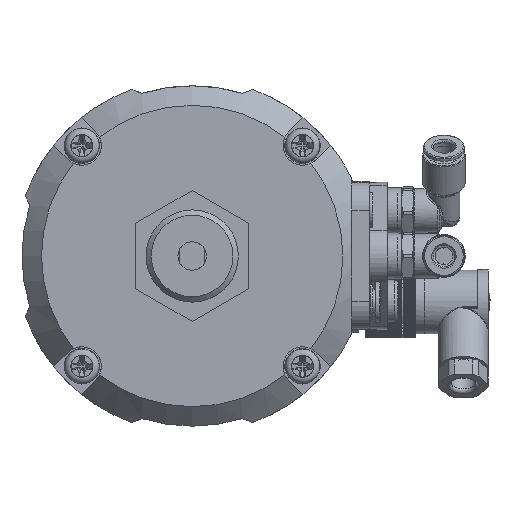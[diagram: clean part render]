
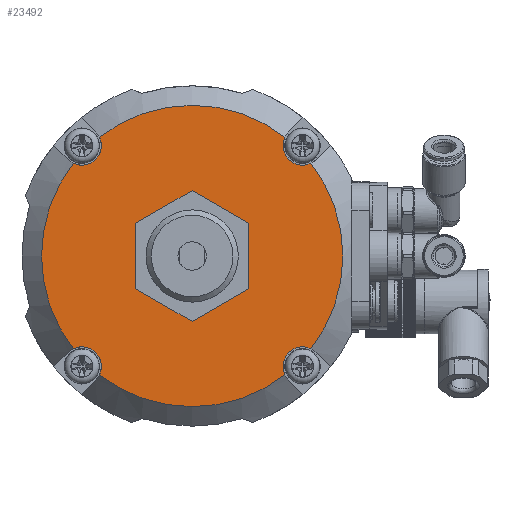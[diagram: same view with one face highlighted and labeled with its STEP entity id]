
A CAD part, front view. The second image highlights one B-rep face of the part: STEP entity #23492.
In plain terms, the highlighted planar face has unit normal (0, -1, 0).
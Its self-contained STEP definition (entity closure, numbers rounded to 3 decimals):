
#23492=ADVANCED_FACE('',(#48159,#48161),#48163,.T.);
#48159=FACE_BOUND('',#48160,.T.);
#48160=EDGE_LOOP('',(#68361,#68362,#68363,#68364,#68365,#68366,#68367,#68368));
#48161=FACE_BOUND('',#48162,.T.);
#48162=EDGE_LOOP('',(#68369,#68370,#68371,#68372,#68373,#68374));
#48163=PLANE('',#48164);
#48164=AXIS2_PLACEMENT_3D('',#48165,#48166,#48167);
#48165=CARTESIAN_POINT('',(0.,-139.,0.));
#48166=DIRECTION('',(0.,-1.,0.));
#48167=DIRECTION('',(0.,0.,1.));
#68361=ORIENTED_EDGE('',*,*,#78576,.T.);
#68362=ORIENTED_EDGE('',*,*,#78577,.T.);
#68363=ORIENTED_EDGE('',*,*,#78578,.T.);
#68364=ORIENTED_EDGE('',*,*,#78498,.T.);
#68365=ORIENTED_EDGE('',*,*,#78574,.T.);
#68366=ORIENTED_EDGE('',*,*,#78567,.T.);
#68367=ORIENTED_EDGE('',*,*,#78579,.T.);
#68368=ORIENTED_EDGE('',*,*,#78580,.T.);
#68369=ORIENTED_EDGE('',*,*,#78581,.F.);
#68370=ORIENTED_EDGE('',*,*,#78582,.F.);
#68371=ORIENTED_EDGE('',*,*,#78583,.F.);
#68372=ORIENTED_EDGE('',*,*,#78584,.F.);
#68373=ORIENTED_EDGE('',*,*,#78585,.F.);
#68374=ORIENTED_EDGE('',*,*,#78586,.F.);
#78498=EDGE_CURVE('',#92206,#92204,#92207,.F.);
#78567=EDGE_CURVE('',#92326,#92324,#92327,.F.);
#78574=EDGE_CURVE('',#92204,#92326,#92337,.F.);
#78576=EDGE_CURVE('',#92339,#92340,#92341,.F.);
#78577=EDGE_CURVE('',#92340,#92342,#92343,.F.);
#78578=EDGE_CURVE('',#92342,#92206,#92344,.F.);
#78579=EDGE_CURVE('',#92324,#92345,#92346,.F.);
#78580=EDGE_CURVE('',#92345,#92339,#92347,.F.);
#78581=EDGE_CURVE('',#92348,#92349,#92350,.T.);
#78582=EDGE_CURVE('',#92351,#92348,#92352,.T.);
#78583=EDGE_CURVE('',#92353,#92351,#92354,.T.);
#78584=EDGE_CURVE('',#92355,#92353,#92356,.T.);
#78585=EDGE_CURVE('',#92357,#92355,#92358,.T.);
#78586=EDGE_CURVE('',#92349,#92357,#92359,.T.);
#92204=VERTEX_POINT('',#142889);
#92206=VERTEX_POINT('',#142909);
#92207=CIRCLE('',#142910,42.5);
#92324=VERTEX_POINT('',#143275);
#92326=VERTEX_POINT('',#143295);
#92327=CIRCLE('',#143296,42.5);
#92337=CIRCLE('',#143341,5.5);
#92339=VERTEX_POINT('',#143348);
#92340=VERTEX_POINT('',#143349);
#92341=CIRCLE('',#143350,5.5);
#92342=VERTEX_POINT('',#143354);
#92343=CIRCLE('',#143355,42.5);
#92344=CIRCLE('',#143359,5.5);
#92345=VERTEX_POINT('',#143363);
#92346=CIRCLE('',#143364,5.5);
#92347=CIRCLE('',#143368,42.5);
#92348=VERTEX_POINT('',#143372);
#92349=VERTEX_POINT('',#143373);
#92350=LINE('',#143374,#143375);
#92351=VERTEX_POINT('',#143377);
#92352=LINE('',#143378,#143379);
#92353=VERTEX_POINT('',#143381);
#92354=LINE('',#143382,#143383);
#92355=VERTEX_POINT('',#143385);
#92356=LINE('',#143386,#143387);
#92357=VERTEX_POINT('',#143389);
#92358=LINE('',#143390,#143391);
#92359=LINE('',#143393,#143394);
#142889=CARTESIAN_POINT('',(33.497,-139.,26.157));
#142909=CARTESIAN_POINT('',(33.497,-139.,-26.157));
#142910=AXIS2_PLACEMENT_3D('',#142911,#142912,#142913);
#142911=CARTESIAN_POINT('',(0.,-139.,0.));
#142912=DIRECTION('',(0.,1.,0.));
#142913=DIRECTION('',(0.788,0.,0.615));
#143275=CARTESIAN_POINT('',(-26.157,-139.,33.497));
#143295=CARTESIAN_POINT('',(26.157,-139.,33.497));
#143296=AXIS2_PLACEMENT_3D('',#143297,#143298,#143299);
#143297=CARTESIAN_POINT('',(0.,-139.,0.));
#143298=DIRECTION('',(0.,1.,0.));
#143299=DIRECTION('',(-0.615,0.,0.788));
#143341=AXIS2_PLACEMENT_3D('',#143342,#143343,#143344);
#143342=CARTESIAN_POINT('',(31.113,-139.,31.113));
#143343=DIRECTION('',(0.,-1.,0.));
#143344=DIRECTION('',(-0.901,0.,0.434));
#143348=CARTESIAN_POINT('',(-33.497,-139.,-26.157));
#143349=CARTESIAN_POINT('',(-26.157,-139.,-33.497));
#143350=AXIS2_PLACEMENT_3D('',#143351,#143352,#143353);
#143351=CARTESIAN_POINT('',(-31.113,-139.,-31.113));
#143352=DIRECTION('',(0.,-1.,0.));
#143353=DIRECTION('',(0.901,0.,-0.434));
#143354=CARTESIAN_POINT('',(26.157,-139.,-33.497));
#143355=AXIS2_PLACEMENT_3D('',#143356,#143357,#143358);
#143356=CARTESIAN_POINT('',(0.,-139.,0.));
#143357=DIRECTION('',(0.,1.,0.));
#143358=DIRECTION('',(0.615,0.,-0.788));
#143359=AXIS2_PLACEMENT_3D('',#143360,#143361,#143362);
#143360=CARTESIAN_POINT('',(31.113,-139.,-31.113));
#143361=DIRECTION('',(0.,-1.,0.));
#143362=DIRECTION('',(0.434,0.,0.901));
#143363=CARTESIAN_POINT('',(-33.497,-139.,26.157));
#143364=AXIS2_PLACEMENT_3D('',#143365,#143366,#143367);
#143365=CARTESIAN_POINT('',(-31.113,-139.,31.113));
#143366=DIRECTION('',(0.,-1.,0.));
#143367=DIRECTION('',(-0.434,0.,-0.901));
#143368=AXIS2_PLACEMENT_3D('',#143369,#143370,#143371);
#143369=CARTESIAN_POINT('',(0.,-139.,0.));
#143370=DIRECTION('',(0.,1.,0.));
#143371=DIRECTION('',(-0.788,0.,-0.615));
#143372=CARTESIAN_POINT('',(0.,-139.,-18.475));
#143373=CARTESIAN_POINT('',(16.,-139.,-9.238));
#143374=CARTESIAN_POINT('',(0.,-139.,-18.475));
#143375=VECTOR('',#143376,1.);
#143376=DIRECTION('',(0.866,0.,0.5));
#143377=CARTESIAN_POINT('',(-16.,-139.,-9.238));
#143378=CARTESIAN_POINT('',(-16.,-139.,-9.238));
#143379=VECTOR('',#143380,1.);
#143380=DIRECTION('',(0.866,0.,-0.5));
#143381=CARTESIAN_POINT('',(-16.,-139.,9.238));
#143382=CARTESIAN_POINT('',(-16.,-139.,9.238));
#143383=VECTOR('',#143384,1.);
#143384=DIRECTION('',(0.,0.,-1.));
#143385=CARTESIAN_POINT('',(0.,-139.,18.475));
#143386=CARTESIAN_POINT('',(0.,-139.,18.475));
#143387=VECTOR('',#143388,1.);
#143388=DIRECTION('',(-0.866,0.,-0.5));
#143389=CARTESIAN_POINT('',(16.,-139.,9.238));
#143390=CARTESIAN_POINT('',(16.,-139.,9.238));
#143391=VECTOR('',#143392,1.);
#143392=DIRECTION('',(-0.866,0.,0.5));
#143393=CARTESIAN_POINT('',(16.,-139.,-9.238));
#143394=VECTOR('',#143395,1.);
#143395=DIRECTION('',(0.,0.,1.));
